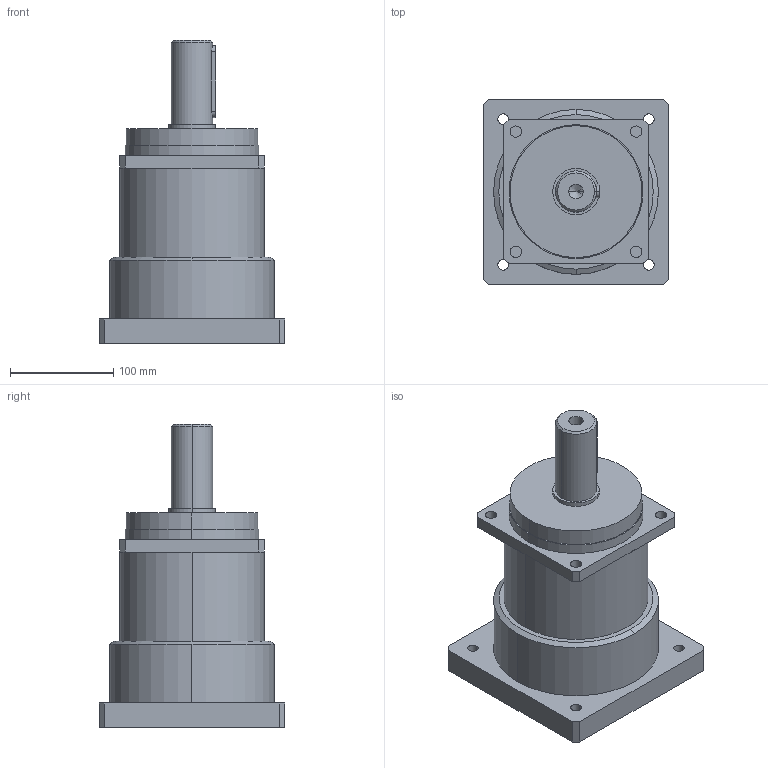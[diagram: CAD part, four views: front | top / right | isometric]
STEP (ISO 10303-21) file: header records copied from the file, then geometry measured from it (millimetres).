
FILE_DESCRIPTION (( 'STEP AP214' ), '1' );
FILE_NAME ('VRS140-L1.STEP', '2019-08-31T06:15:16', ( '微软用户' ), ( '微软中国' ), 'SwSTEP 2.0', 'SolidWorks 2014', '' );
FILE_SCHEMA (( 'AUTOMOTIVE_DESIGN' ));
Length unit declared in the file: millimetre
Products named in the file (2): VRS140-L1
Bounding box: 180 x 180 x 294.5 mm (x, y, z)
Volume: 3826080.7 mm3; surface area: 201816.7 mm2
Topology: 1 solids, 1 shells, 705 faces, 2005 edges, 1332 vertices
Faces by surface type: plane 602, bspline 60, cylinder 37, cone 6
Entity records: 29816 total; most frequent: CARTESIAN_POINT 4914, ORIENTED_EDGE 4006, DIRECTION 3252, EDGE_CURVE 2003, VECTOR 1800, LINE 1800, VERTEX_POINT 1332, EDGE_LOOP 745
